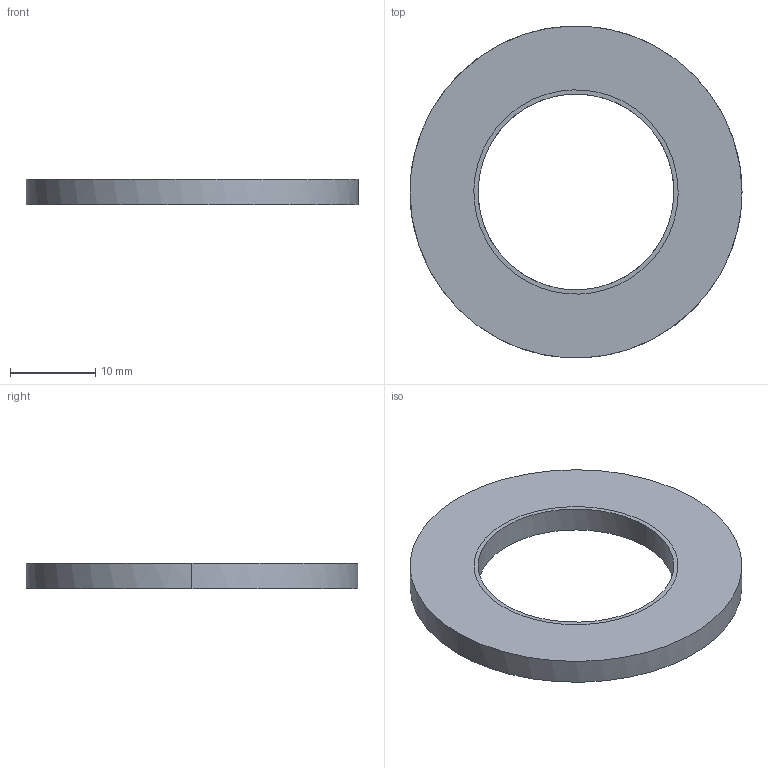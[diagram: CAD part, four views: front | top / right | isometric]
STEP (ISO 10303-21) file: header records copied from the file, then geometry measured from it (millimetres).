
FILE_DESCRIPTION(/* description */ (''),/* implementation_level */ '2;1');
FILE_NAME(/* name */ 'Washer 1',/* time_stamp */ '2023-04-20T00:57:25-04:00',/* author */ (''),/* organization */ (''),/* preprocessor_version */ 'ST-DEVELOPER v15',/* originating_system */ '',/* authorisation */ '');
FILE_SCHEMA (('CONFIG_CONTROL_DESIGN'));
Length unit declared in the file: millimetre
Products named in the file (1): Document
Bounding box: 39 x 38.95 x 3 mm (x, y, z)
Volume: 2343.6 mm3; surface area: 2146.1 mm2
Topology: 1 solids, 1 shells, 7 faces, 13 edges, 9 vertices
Faces by surface type: bspline 7
Entity records: 461 total; most frequent: CARTESIAN_POINT 210, ORIENTED_EDGE 26, PCURVE 26, DEFINITIONAL_REPRESENTATION 26, B_SPLINE_CURVE_WITH_KNOTS 16, SURFACE_CURVE 13, EDGE_CURVE 13, EDGE_LOOP 10
